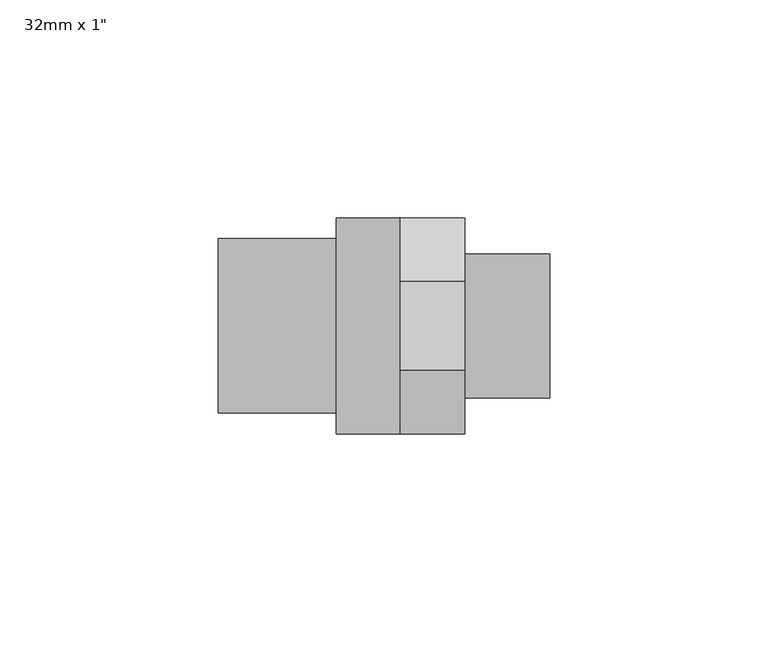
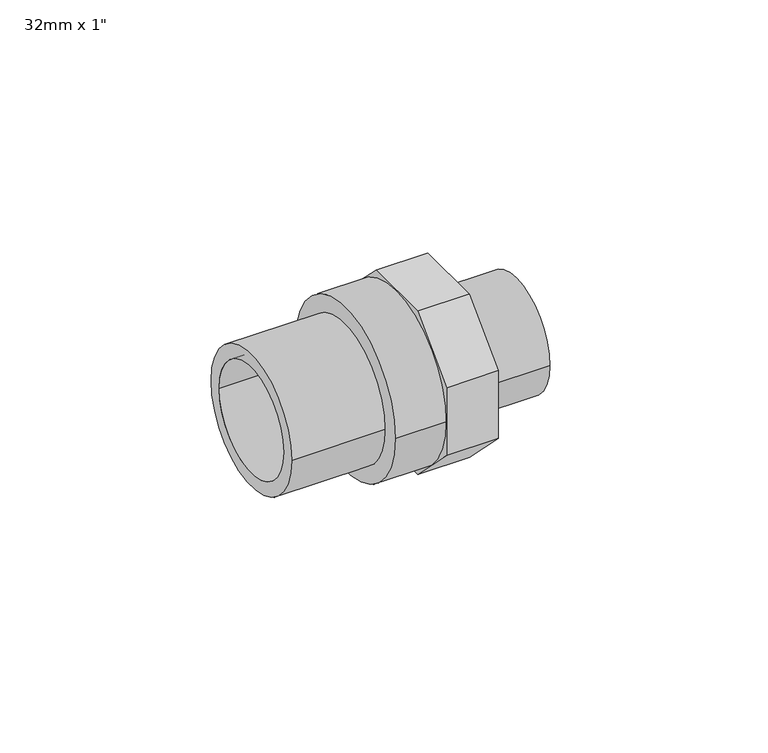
"""IFC4 building model written with IfcOpenShell, lengths in millimetres: pipe fitting geometry."""

from ifc_helpers import new_model, si_unit, point, frame, origin, origin_2d, place, context, project, spatial, polyline, circle_curve, trimmed, segment, composite_curve, outline, extrude, source, transform, mapped, element, save


def pipe_fitting_d05b4815(model_context):
    return source(origin(), model_context, "Body", "SweptSolid", [
        extrude(outline(composite_curve([segment(trimmed(circle_curve(origin_2d(), 16.5), [point((-16.5, 0.0))], [point((16.5, 0.0))], False, "CARTESIAN"), True, "CONTINUOUS"), segment(trimmed(circle_curve(origin_2d(), 16.5), [point((16.5, 0.0))], [point((-16.5, 0.0))], False, "CARTESIAN"), True, "CONTINUOUS")], self_intersect=False), holes=[composite_curve([segment(trimmed(circle_curve(origin_2d(), 13.0), [point((-13.0, 0.0))], [point((13.0, 0.0))], True, "CARTESIAN"), True, "CONTINUOUS"), segment(trimmed(circle_curve(origin_2d(), 13.0), [point((13.0, 0.0))], [point((-13.0, 0.0))], True, "CARTESIAN"), True, "CONTINUOUS")], self_intersect=False)]), frame((18.5, 0.0, 0.0), z_axis=(1.0, 0.0, 0.0), x_axis=(0.0, 1.0, 0.0)), (0.0, 0.0, 1.0), 19.5),
        extrude(outline(polyline([(10.2517857, 24.75), (24.75, 10.2517857), (24.75, -10.2517857), (10.2517857, -24.75), (-10.2517857, -24.75), (-24.75, -10.2517857), (-24.75, 10.2517857), (-10.2517857, 24.75), (10.2517857, 24.75)]), holes=[composite_curve([segment(trimmed(circle_curve(origin_2d(), 13.0), [point((-13.0, 0.0))], [point((13.0, 0.0))], True, "CARTESIAN"), True, "CONTINUOUS"), segment(trimmed(circle_curve(origin_2d(), 13.0), [point((13.0, 0.0))], [point((-13.0, 0.0))], True, "CARTESIAN"), True, "CONTINUOUS")], self_intersect=False)]), frame((3.75, 0.0, 0.0), z_axis=(1.0, 0.0, 0.0), x_axis=(0.0, 1.0, 0.0)), (0.0, 0.0, 1.0), 14.75),
        extrude(outline(composite_curve([segment(trimmed(circle_curve(origin_2d(), 24.75), [point((-24.75, 0.0))], [point((24.75, 0.0))], False, "CARTESIAN"), True, "CONTINUOUS"), segment(trimmed(circle_curve(origin_2d(), 24.75), [point((24.75, 0.0))], [point((-24.75, 0.0))], False, "CARTESIAN"), True, "CONTINUOUS")], self_intersect=False), holes=[composite_curve([segment(trimmed(circle_curve(origin_2d(), 13.0), [point((-13.0, 0.0))], [point((13.0, 0.0))], True, "CARTESIAN"), True, "CONTINUOUS"), segment(trimmed(circle_curve(origin_2d(), 13.0), [point((13.0, 0.0))], [point((-13.0, 0.0))], True, "CARTESIAN"), True, "CONTINUOUS")], self_intersect=False)]), frame((-11.0, 0.0, 0.0), z_axis=(1.0, 0.0, 0.0), x_axis=(0.0, 1.0, 0.0)), (0.0, 0.0, 1.0), 14.75),
        extrude(outline(composite_curve([segment(trimmed(circle_curve(origin_2d(), 20.0), [point((-20.0, 0.0))], [point((20.0, 0.0))], False, "CARTESIAN"), True, "CONTINUOUS"), segment(trimmed(circle_curve(origin_2d(), 20.0), [point((20.0, 0.0))], [point((-20.0, 0.0))], False, "CARTESIAN"), True, "CONTINUOUS")], self_intersect=False), holes=[composite_curve([segment(trimmed(circle_curve(origin_2d(), 16.0), [point((-16.0, 0.0))], [point((16.0, 0.0))], True, "CARTESIAN"), True, "CONTINUOUS"), segment(trimmed(circle_curve(origin_2d(), 16.0), [point((16.0, 0.0))], [point((-16.0, 0.0))], True, "CARTESIAN"), True, "CONTINUOUS")], self_intersect=False)]), frame((-38.0, 0.0, 0.0), z_axis=(1.0, 0.0, 0.0), x_axis=(0.0, 1.0, 0.0)), (0.0, 0.0, 1.0), 27.0),
    ])


if __name__ == "__main__":
    model = new_model("IFC4")
    model_context = context("Model", 3, world=origin())
    ifc_project = project(units=[si_unit("LENGTHUNIT", "METRE", prefix="MILLI")], contexts=[model_context])
    site = spatial("IfcSite", under=ifc_project)
    building = spatial("IfcBuilding", under=site)
    placement = place(None, origin())
    pipe_fitting_shape = pipe_fitting_d05b4815(model_context)
    element("IfcPipeFitting", 1, ObjectType="PipeFitting_HTA_CPVC_AdaptorNipplesA : 32mm x 1\"", at=placement, inside=building, context=model_context, shape_type="MappedRepresentation", body=[
        mapped(pipe_fitting_shape, transform((0.0, 0.0, 0.0), x_axis=(1.0, 0.0, 0.0), y_axis=(0.0, 1.0, 0.0), z_axis=(0.0, 0.0, 1.0))),
    ])
    save(model, "model.ifc")
